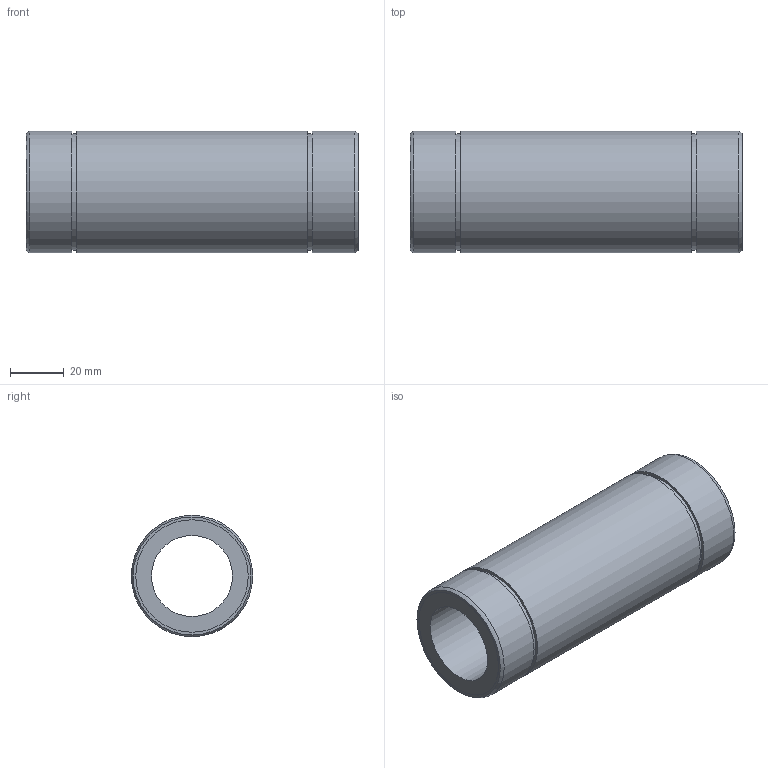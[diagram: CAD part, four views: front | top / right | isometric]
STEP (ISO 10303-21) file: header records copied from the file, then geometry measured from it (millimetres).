
FILE_DESCRIPTION((''),'2;1');
FILE_NAME('D:\製品 (図面)\カタログ用3D\リニアベアリング関連\STEP形式\LD\LD30.stp','2010-06-02T17:41:36',('Tsuchiya'),(''),'Autodesk Inventor 10','Autodesk Inventor 10','');
FILE_SCHEMA(('AUTOMOTIVE_DESIGN { 1 0 10303 214 1 1 1 1 }'));
Length unit declared in the file: millimetre
Products named in the file (1): LD30
Bounding box: 123 x 45 x 45 mm (x, y, z)
Volume: 107925.1 mm3; surface area: 31138 mm2
Topology: 1 solids, 1 shells, 18 faces, 28 edges, 18 vertices
Faces by surface type: plane 8, cylinder 8, torus 2
Full cylindrical faces by diameter (mm): 30 x1, 41.7 x2, 43 x2, 45 x3
Entity records: 391 total; most frequent: DIRECTION 74, CARTESIAN_POINT 55, AXIS2_PLACEMENT_3D 37, ORIENTED_EDGE 36, EDGE_LOOP 36, VERTEX_POINT 18, CIRCLE 18, EDGE_CURVE 18
